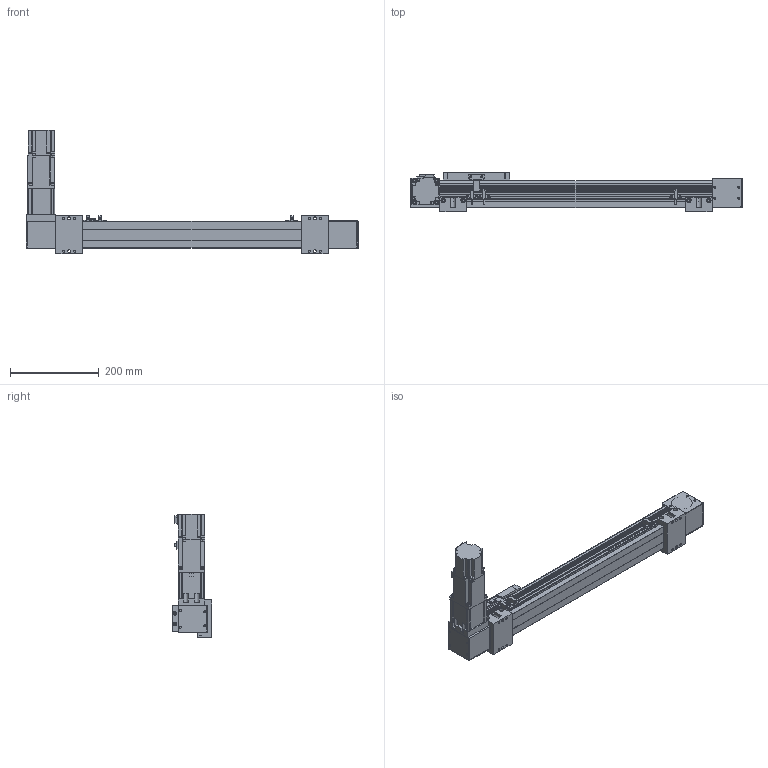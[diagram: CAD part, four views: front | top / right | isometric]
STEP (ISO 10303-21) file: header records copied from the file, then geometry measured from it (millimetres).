
FILE_DESCRIPTION(/* description */ ('STEP AP203'),/* implementation_level */ '2;1');
FILE_NAME(/* name */ 'SK60-P13-S450-BL-T40-C1-N(0)',/* time_stamp */ '2023-04-06T03:35:45+02:00',/* author */ ('License CC BY-ND 4.0'),/* organization */ ('CADENAS'),/* preprocessor_version */ 'ST-DEVELOPER v19.3',/* originating_system */ 'PARTsolutions',/* authorisation */ ' ');
FILE_SCHEMA (('CONFIG_CONTROL_DESIGN'));
Length unit declared in the file: millimetre
Products named in the file (11): SK60-P13-S450-BL-T40-C1-N(0); PSC140-sensor; SK60-S450_seat; SK60-S450-BL-C1_slider; SK60_body3; SK60_body6; SK60-BL_body2; T40-p1; SK60_body5; SK60_body4; SK60-S450-BL-C1_body
Assembly tree (17 placements, depth 2):
  SK60-P13-S450-BL-T40-C1-N(0)
    PSC140-sensor  x3
    SK60-S450_seat  x2
    SK60-S450-BL-C1_slider
    SK60_body3  x3
    SK60_body6  x2
    SK60-BL_body2  x2
    T40-p1
    SK60_body5
    SK60_body4
    SK60-S450-BL-C1_body
Bounding box: 750 x 90 x 278.2 mm (x, y, z)
Volume: 3197275.5 mm3; surface area: 485493.6 mm2
Topology: 17 solids, 21 shells, 834 faces, 2109 edges, 1394 vertices
Faces by surface type: plane 544, cylinder 266, cone 22, torus 2
Full cylindrical faces by diameter (mm): 2.8 x3, 3.3 x4, 4.2 x8, 4.5 x26, 4.6 x3, 4.917 x16, 5 x2, 5.478 x4, 5.5 x19, 6.5 x4, 8 x4, 8.5 x4, 9.988 x4, 10 x8, 13.556 x1, 14 x1, 14.586 x1, 19.692 x1, 38.432 x2, 43 x1, 44 x3, 47 x2, 50 x2
Entity records: 19371 total; most frequent: DIRECTION 3292, CARTESIAN_POINT 3289, ORIENTED_EDGE 3050, EDGE_CURVE 1525, AXIS2_PLACEMENT_3D 1100, LINE 1092, VECTOR 1092, VERTEX_POINT 1077
